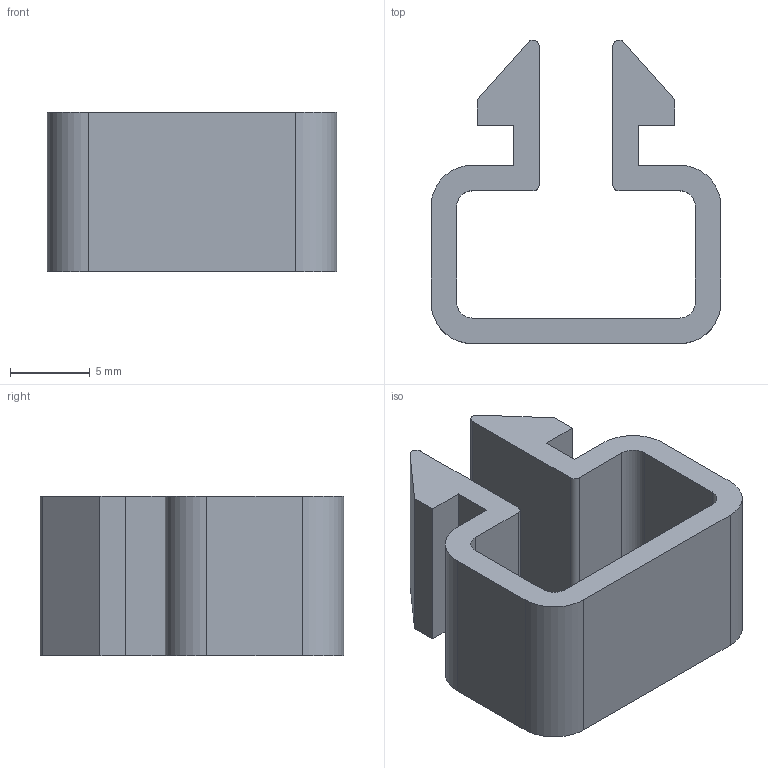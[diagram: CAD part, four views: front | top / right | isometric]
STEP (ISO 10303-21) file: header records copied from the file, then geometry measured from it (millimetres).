
FILE_DESCRIPTION (( 'STEP AP214' ), '1' );
FILE_NAME ('Clips S8-30-8x15.STEP', '2023-05-23T10:56:14', ( '' ), ( '' ), 'SwSTEP 2.0', 'SolidWorks 2022', '' );
FILE_SCHEMA (( 'AUTOMOTIVE_DESIGN' ));
Length unit declared in the file: millimetre
Products named in the file (1): Clips S8-30-8x15
Bounding box: 18.2 x 19.05 x 10 mm (x, y, z)
Volume: 1086.5 mm3; surface area: 1500.8 mm2
Topology: 1 solids, 1 shells, 34 faces, 96 edges, 64 vertices
Faces by surface type: plane 22, cylinder 12
Entity records: 1138 total; most frequent: CARTESIAN_POINT 195, ORIENTED_EDGE 192, DIRECTION 190, EDGE_CURVE 96, VECTOR 72, LINE 72, VERTEX_POINT 64, AXIS2_PLACEMENT_3D 59
